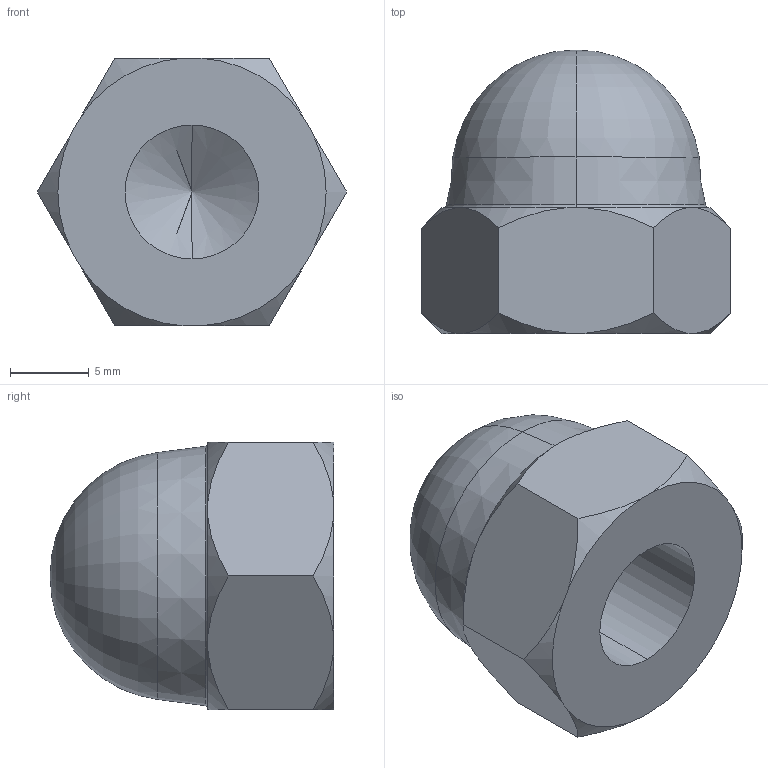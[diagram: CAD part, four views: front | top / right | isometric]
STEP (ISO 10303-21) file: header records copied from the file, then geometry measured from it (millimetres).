
FILE_DESCRIPTION (( 'STEP AP203' ), '1' );
FILE_NAME ('SAGOTOOL.P.TAN_BAU_M10.STEP', '2026-07-09T03:09:12', ( '' ), ( '' ), 'SwSTEP 2.0', 'SolidWorks 2020', '' );
FILE_SCHEMA (( 'CONFIG_CONTROL_DESIGN' ));
Length unit declared in the file: millimetre
Products named in the file (1): SAGOTOOL.P.TAN_BAU_M10
Bounding box: 19.63 x 18 x 17 mm (x, y, z)
Volume: 2621.7 mm3; surface area: 1608.5 mm2
Topology: 1 solids, 1 shells, 31 faces, 78 edges, 49 vertices
Faces by surface type: cone 16, plane 9, torus 4, cylinder 2
Entity records: 1139 total; most frequent: CARTESIAN_POINT 349, ORIENTED_EDGE 152, DIRECTION 144, EDGE_CURVE 76, AXIS2_PLACEMENT_3D 60, VERTEX_POINT 49, EDGE_LOOP 33, ADVANCED_FACE 31
